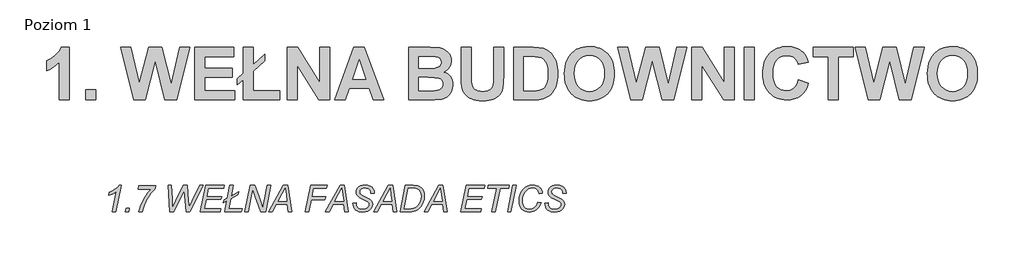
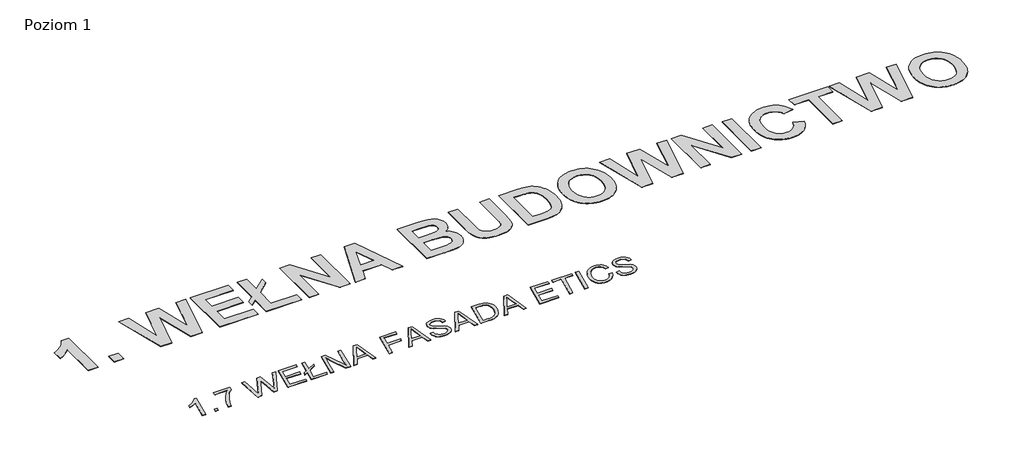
# One storey, incomplete: 2 proxies.
"""IFC4 building model written with IfcOpenShell, lengths in millimetres."""

import ifcopenshell
import ifcopenshell.guid

model = None  # the IFC model being written
_history = None  # IfcOwnerHistory: only IFC2X3 demands one
_inside = {}  # id of a spatial element -> (the spatial element, [elements in it])
_under = {}  # id of a project, library or spatial element -> (it, [spatial elements below it])
_declared = {}  # id of a project -> (the project, [libraries it declares])
_typed = {}  # id of a type object -> (the type object, [elements of that type])
_made_of = {}  # id of a material, layer set ... -> (it, [elements and type objects made of it])


def new_model(schema):
    """Start an empty IFC model of exactly this schema.

    Asked for "IFC4X3", IfcOpenShell would pick the latest addendum, in which some entities
    have other attributes; the version numbers below select the first issue.
    IFC2X3 requires an IfcOwnerHistory on every rooted entity: one is made here for all.
    """
    global model, _history
    if schema == "IFC4X3":
        model = ifcopenshell.file(schema_version=(4, 3, 0, 0))
    else:
        model = ifcopenshell.file(schema=schema)
    _inside.clear()
    _under.clear()
    _declared.clear()
    _typed.clear()
    _made_of.clear()
    _history = None
    if model.schema == "IFC2X3":
        org = make("IfcOrganization", Name="unknown")
        user = make(
            "IfcPersonAndOrganization",
            ThePerson=make("IfcPerson", FamilyName="unknown"),
            TheOrganization=org,
        )
        app = make(
            "IfcApplication",
            ApplicationDeveloper=org,
            Version="unknown",
            ApplicationFullName="unknown",
            ApplicationIdentifier="unknown",
        )
        _history = make(
            "IfcOwnerHistory",
            OwningUser=user,
            OwningApplication=app,
            ChangeAction="ADDED",
            CreationDate=0,
        )
    return model


def make(cls, **values):
    """One entity of the class cls with the attributes given. An attribute that is None is left unset."""
    return model.create_entity(
        cls, **{name: value for name, value in values.items() if value is not None}
    )


def rooted(cls, **values):
    """An entity with a GlobalId (a new one), such as an element, a storey or a relation."""
    return make(cls, GlobalId=ifcopenshell.guid.new(), OwnerHistory=_history, **values)


def si_unit(unit_type, name, prefix=None):
    """IfcSIUnit, for example si_unit("LENGTHUNIT", "METRE", prefix="MILLI")."""
    return make("IfcSIUnit", UnitType=unit_type, Prefix=prefix, Name=name)


def assignment(units):
    """IfcUnitAssignment: the units of a project."""
    return None if units is None else make("IfcUnitAssignment", Units=units)


def point(xyz):
    """IfcCartesianPoint."""
    return None if xyz is None else make("IfcCartesianPoint", Coordinates=xyz)


def direction(xyz):
    """IfcDirection."""
    return None if xyz is None else make("IfcDirection", DirectionRatios=xyz)


def frame(location, z_axis=None, x_axis=None):
    """IfcAxis2Placement3D, a coordinate frame: its origin and axes. An axis left out is left unset."""
    return make(
        "IfcAxis2Placement3D",
        Location=point(location),
        Axis=direction(z_axis),
        RefDirection=direction(x_axis),
    )


def origin():
    """The frame at (0, 0, 0) with its axes left unset."""
    return frame((0.0, 0.0, 0.0))


def origin_with_axes():
    """The frame at (0, 0, 0) with the z axis (0, 0, 1) and the x axis (1, 0, 0) written out."""
    return frame((0.0, 0.0, 0.0), z_axis=(0.0, 0.0, 1.0), x_axis=(1.0, 0.0, 0.0))


def place(relative_to, where):
    """IfcLocalPlacement: puts the frame where relative to a parent placement (None: the world)."""
    return make(
        "IfcLocalPlacement", PlacementRelTo=relative_to, RelativePlacement=where
    )


def context(
    kind, dimensions, precision=None, world=None, true_north=None, identifier=None
):
    """IfcGeometricRepresentationContext, for example the 3D "Model" context."""
    return make(
        "IfcGeometricRepresentationContext",
        ContextIdentifier=identifier,
        ContextType=kind,
        CoordinateSpaceDimension=dimensions,
        Precision=precision,
        WorldCoordinateSystem=world,
        TrueNorth=true_north,
    )


def project(units=None, contexts=None):
    """IfcProject with its units and contexts."""
    return rooted(
        "IfcProject",
        Name="project",
        RepresentationContexts=contexts,
        UnitsInContext=assignment(units),
    )


def spatial(cls, under=None, at=None, **own):
    """A site, building, storey or space (cls), placed at a placement, below another one or the project."""
    s = rooted(cls, ObjectPlacement=at, **own)
    if under is not None:
        _under.setdefault(under.id(), (under, []))[1].append(s)
    return s


def polyline(points):
    """IfcPolyline through the points."""
    return make("IfcPolyline", Points=[point(p) for p in points])


def outline(outer, holes=None, kind="AREA"):
    """IfcArbitraryClosedProfileDef: a profile drawn as a closed curve; with holes, ...WithVoids."""
    if holes is None:
        return make("IfcArbitraryClosedProfileDef", ProfileType=kind, OuterCurve=outer)
    return make(
        "IfcArbitraryProfileDefWithVoids",
        ProfileType=kind,
        OuterCurve=outer,
        InnerCurves=holes,
    )


def extrude(swept, where, along, depth):
    """IfcExtrudedAreaSolid: the profile swept, set in the frame where, extruded along a direction by depth."""
    return make(
        "IfcExtrudedAreaSolid",
        SweptArea=swept,
        Position=where,
        ExtrudedDirection=direction(along),
        Depth=depth,
    )


def shape(context_of_items, identifier, shape_type, items):
    """IfcShapeRepresentation: the items that make up one representation, for example the "Body"."""
    return make(
        "IfcShapeRepresentation",
        ContextOfItems=context_of_items,
        RepresentationIdentifier=identifier,
        RepresentationType=shape_type,
        Items=items,
    )


def made_of(thing, what):
    """Note that an element or type object is made of a material, layer set ...; save() writes the relation."""
    if what is not None:
        _made_of.setdefault(what.id(), (what, []))[1].append(thing)
    return thing


def element(
    cls,
    number,
    at=None,
    inside=None,
    cuts=None,
    type_object=None,
    material=None,
    context=None,
    identifier="Body",
    shape_type=None,
    held_by="IfcProductDefinitionShape",
    body=None,
    shapes=None,
    **own,
):
    """One element of the class cls, such as IfcWall. Its Tag is "e" and its number.

    at: its placement. inside: the storey or other place that contains it. cuts: it is an
    opening in that element (IfcRelVoidsElement). A single representation is given by context,
    identifier, shape_type and body (its items); several are given by shapes. held_by: the class
    of the entity that holds the representations. save() writes the other relations.
    """
    e = rooted(cls, Tag="e%d" % number, ObjectPlacement=at, **own)
    if body is not None:
        shapes = [shape(context, identifier, shape_type, body)]
    if shapes is not None:
        e.Representation = make(held_by, Representations=shapes)
    if inside is not None:
        _inside.setdefault(inside.id(), (inside, []))[1].append(e)
    if cuts is not None:
        rooted(
            "IfcRelVoidsElement", RelatingBuildingElement=cuts, RelatedOpeningElement=e
        )
    if type_object is not None:
        _typed.setdefault(type_object.id(), (type_object, []))[1].append(e)
    return made_of(e, material)


def aggregate(whole, parts):
    """IfcRelAggregates: a whole, such as a stair, and the parts it consists of."""
    return rooted("IfcRelAggregates", RelatingObject=whole, RelatedObjects=parts)


def save(model, path):
    """Write the relations noted so far, then the file.

    IfcRelAggregates (storeys below a building ...), IfcRelContainedInSpatialStructure (elements
    in a storey), IfcRelDefinesByType, IfcRelAssociatesMaterial and IfcRelDeclares: one each for
    every whole, place, type object, material and project.
    """
    for whole, parts in _under.values():
        aggregate(whole, parts)
    for where, things in _inside.values():
        rooted(
            "IfcRelContainedInSpatialStructure",
            RelatedElements=things,
            RelatingStructure=where,
        )
    for kind, things in _typed.values():
        rooted("IfcRelDefinesByType", RelatedObjects=things, RelatingType=kind)
    for what, things in _made_of.values():
        rooted("IfcRelAssociatesMaterial", RelatedObjects=things, RelatingMaterial=what)
    for by, libraries in _declared.values():
        rooted("IfcRelDeclares", RelatingContext=by, RelatedDefinitions=libraries)
    model.write(path)


model = new_model("IFC4")

# Units and contexts
model_context = context("Model", 3, world=origin())
ifc_project = project(units=[si_unit("LENGTHUNIT", "METRE", prefix="MILLI")], contexts=[model_context])

# Site, building, storey
site = spatial("IfcSite", under=ifc_project)
building = spatial("IfcBuilding", under=site)
storey = spatial("IfcBuildingStorey", under=building, Name="Poziom 1", Elevation=0.0)

# Proxies
placement = place(None, origin())
element("IfcBuildingElementProxy", 1, Name="400 mm Arial", ObjectType="400 mm Arial", at=placement, inside=storey, context=model_context, shape_type="SweptSolid", body=[
    extrude(outline(polyline([(-15026.5260383, 15251.1796723), (-14963.7408444, 15553.9220288), (-14986.2736166, 15538.6304005), (-15012.9634554, 15524.9329276), (-15078.8143325, 15502.3204476), (-15069.5927572, 15546.2700833), (-15032.9639732, 15563.3275452), (-14996.850224, 15584.8731673), (-14942.5508415, 15626.4193073), (-14921.2627367, 15653.0049128), (-14891.930279, 15653.0049128), (-14975.4149664, 15251.1796723), (-15026.5260383, 15251.1796723)])), origin_with_axes(), (0.0, 0.0, 1.0), 5.0),
    extrude(outline(polyline([(-14824.828603, 15251.1796723), (-14813.0563792, 15301.4078273), (-14762.8282241, 15301.4078273), (-14773.6194293, 15251.1796723), (-14824.828603, 15251.1796723)])), origin_with_axes(), (0.0, 0.0, 1.0), 5.0),
    extrude(outline(polyline([(-14618.4222783, 15251.1796723), (-14608.1215824, 15295.1538334), (-14590.3651448, 15347.2213985), (-14560.7751696, 15414.6909564), (-14523.2144179, 15481.7190559), (-14479.3260959, 15543.8175367), (-14430.7534098, 15596.4982384), (-14631.8622338, 15596.4982384), (-14622.248251, 15646.7263935), (-14364.3384469, 15646.7263935), (-14373.5600223, 15596.4982384), (-14405.6699891, 15566.2583384), (-14435.6830285, 15531.947211), (-14463.5991406, 15493.5648561), (-14489.4183253, 15451.1112739), (-14515.9364858, 15400.0615157), (-14537.9051723, 15349.722996), (-14555.3243847, 15300.0957149), (-14568.1941232, 15251.1796723), (-14618.4222783, 15251.1796723)])), origin_with_axes(), (0.0, 0.0, 1.0), 5.0),
    extrude(outline(polyline([(-13272.3665834, 15417.9528434), (-13325.0472851, 15389.3070987), (-13312.4902463, 15433.2567344), (-13263.8317211, 15459.744238), (-13224.5909749, 15653.0049128), (-13173.578005, 15653.0049128), (-13206.5402317, 15490.7444275), (-13092.7420679, 15552.5486027), (-13105.2991066, 15508.598967), (-13214.9769921, 15449.0511347), (-13246.2714872, 15295.1293079), (-13036.2353934, 15295.1293079), (-13048.7924322, 15251.1796723), (-13306.2117269, 15251.1796723), (-13272.3665834, 15417.9528434)])), origin_with_axes(), (0.0, 0.0, 1.0), 5.0),
    extrude(outline(polyline([(-13676.6443706, 15251.1796723), (-13595.0236186, 15653.0049128), (-13312.4902463, 15653.0049128), (-13318.8668676, 15609.0552772), (-13552.9379184, 15609.0552772), (-13578.4444034, 15483.4848895), (-13350.1613626, 15483.4848895), (-13362.7184014, 15439.5352538), (-13587.3716731, 15439.5352538), (-13616.7041309, 15295.1293079), (-13364.8766424, 15295.1293079), (-13374.2944215, 15251.1796723), (-13676.6443706, 15251.1796723)])), origin_with_axes(), (0.0, 0.0, 1.0), 5.0),
    extrude(outline(polyline([(-14147.5333244, 15251.1796723), (-14172.647402, 15653.0049128), (-14122.4192469, 15653.0049128), (-14110.9413287, 15452.8771075), (-14106.5267447, 15376.0633469), (-14105.1533186, 15351.4397787), (-14100.4444291, 15320.2433855), (-14053.846043, 15422.3674273), (-13936.1238046, 15653.0049128), (-13877.5569909, 15653.0049128), (-13859.8005533, 15417.4623341), (-13849.3036537, 15320.2433855), (-13833.4111515, 15358.7974186), (-13802.0185546, 15421.3864087), (-13685.4735385, 15653.0049128), (-13629.5554752, 15653.0049128), (-13838.7086522, 15251.1796723), (-13896.3925491, 15251.1796723), (-13915.424311, 15493.5893816), (-13924.6458863, 15571.3841609), (-13951.2314918, 15512.9154491), (-14085.0424362, 15251.1796723), (-14147.5333244, 15251.1796723)])), origin_with_axes(), (0.0, 0.0, 1.0), 5.0),
    extrude(outline(polyline([(-12630.3879763, 15251.1796723), (-12405.5385009, 15653.0049128), (-12341.9684921, 15653.0049128), (-12278.6927889, 15251.1796723), (-12329.4114534, 15251.1796723), (-12345.5001593, 15364.1930212), (-12512.7638397, 15364.1930212), (-12574.0775056, 15251.1796723), (-12630.3879763, 15251.1796723)]), holes=[polyline([(-12486.7668454, 15408.1426569), (-12351.6805768, 15408.1426569), (-12365.8072454, 15508.598967), (-12380.1301178, 15609.0552772), (-12424.374059, 15527.4345252), (-12486.7668454, 15408.1426569)])]), origin_with_axes(), (0.0, 0.0, 1.0), 5.0),
    extrude(outline(polyline([(-12998.5642771, 15251.1796723), (-12916.9435251, 15653.0049128), (-12847.8798119, 15653.0049128), (-12787.0566554, 15497.5134562), (-12742.9108159, 15377.7310786), (-12721.2303037, 15301.4078273), (-12699.0592821, 15415.4021949), (-12652.8533035, 15653.0049128), (-12601.9384354, 15653.0049128), (-12680.0275202, 15251.1796723), (-12754.1925304, 15251.1796723), (-12837.2848104, 15482.0133615), (-12877.8008808, 15594.3399974), (-12897.9117632, 15495.1590115), (-12947.5513071, 15251.1796723), (-12998.5642771, 15251.1796723)])), origin_with_axes(), (0.0, 0.0, 1.0), 5.0),
    extrude(outline(polyline([(-11763.9523013, 15251.1796723), (-11539.1028258, 15653.0049128), (-11475.5328171, 15653.0049128), (-11412.2571139, 15251.1796723), (-11462.9757783, 15251.1796723), (-11479.0644842, 15364.1930212), (-11646.3281647, 15364.1930212), (-11707.6418306, 15251.1796723), (-11763.9523013, 15251.1796723)]), holes=[polyline([(-11620.3311704, 15408.1426569), (-11485.2449018, 15408.1426569), (-11499.3715704, 15508.598967), (-11513.6944427, 15609.0552772), (-11557.938384, 15527.4345252), (-11620.3311704, 15408.1426569)])]), origin_with_axes(), (0.0, 0.0, 1.0), 5.0),
    extrude(outline(polyline([(-12069.3434082, 15251.1796723), (-11988.1150637, 15653.0049128), (-11733.6388249, 15653.0049128), (-11746.1958637, 15609.0552772), (-11945.9312616, 15609.0552772), (-11972.614969, 15477.2063701), (-11759.5377174, 15477.2063701), (-11772.0947561, 15433.2567344), (-11981.5422387, 15433.2567344), (-12018.3304382, 15251.1796723), (-12069.3434082, 15251.1796723)])), origin_with_axes(), (0.0, 0.0, 1.0), 5.0),
    extrude(outline(polyline([(-11341.0351596, 15383.0285793), (-11290.8070046, 15389.3070987), (-11291.3956158, 15374.7880226), (-11288.7468654, 15351.7586097), (-11280.8006143, 15330.7402851), (-11266.7475221, 15312.9961102), (-11245.7782484, 15299.7891465), (-11219.0700155, 15291.5853781), (-11187.8000459, 15288.8507886), (-11145.7020829, 15294.1482893), (-11128.9113355, 15300.7701652), (-11114.9594109, 15310.0407915), (-11096.1606409, 15332.7268478), (-11091.4609484, 15345.1919161), (-11089.8943843, 15358.4050111), (-11093.1807968, 15376.5293307), (-11103.0400342, 15393.0349696), (-11127.957908, 15411.0857128), (-11176.0278221, 15434.6301605), (-11239.2054234, 15466.0227574), (-11262.2103108, 15484.56401), (-11278.2499658, 15504.6748924), (-11287.6677449, 15527.0666432), (-11290.8070046, 15552.4505008), (-11286.7235144, 15581.7829586), (-11274.473044, 15608.1723604), (-11254.3621616, 15630.1349155), (-11226.6974355, 15646.1868332), (-11193.2324367, 15656.0092825), (-11155.7207359, 15659.2834322), (-11112.2370841, 15655.0773148), (-11076.1601231, 15642.4589623), (-11048.2256169, 15622.8263265), (-11029.1693296, 15597.5773589), (-11018.2064461, 15570.1578875), (-11014.5521517, 15544.0137404), (-11014.5521517, 15535.57698), (-11064.7803067, 15531.3585998), (-11067.6252608, 15559.1214277), (-11074.3575013, 15575.2959727), (-11083.9592214, 15588.6991401), (-11097.0558204, 15599.5393962), (-11114.2726978, 15608.0252076), (-11134.6901485, 15613.5066493), (-11157.3884677, 15615.3337965), (-11194.7162274, 15610.3796523), (-11209.8852284, 15604.1869721), (-11222.72431, 15595.5172197), (-11236.1152146, 15577.9324604), (-11240.5788495, 15555.3935568), (-11238.7271768, 15541.36499), (-11233.1721587, 15528.9060531), (-11222.7856237, 15517.330033), (-11206.4394003, 15505.9502166), (-11141.2016599, 15474.4595179), (-11083.517763, 15444.440347), (-11064.8538831, 15428.4006921), (-11051.0460456, 15409.3198792), (-11042.5111833, 15387.2960105), (-11039.6662292, 15362.4271876), (-11044.4977461, 15331.1940062), (-11058.9922967, 15302.4378969), (-11082.0094468, 15278.0473206), (-11112.4087624, 15259.9107383), (-11148.96397, 15248.6535492), (-11190.4487963, 15244.9011529), (-11222.1265018, 15246.777351), (-11250.7446553, 15252.4059456), (-11276.3032569, 15261.7869364), (-11298.8023066, 15274.9203237), (-11317.1688152, 15292.9342787), (-11330.3297936, 15316.956973), (-11338.2852417, 15346.9884065), (-11341.0351596, 15383.0285793)])), origin_with_axes(), (0.0, 0.0, 1.0), 5.0),
    extrude(outline(polyline([(-11023.0870139, 15251.1796723), (-10798.2375385, 15653.0049128), (-10734.6675297, 15653.0049128), (-10671.3918266, 15251.1796723), (-10722.110491, 15251.1796723), (-10738.1991969, 15364.1930212), (-10905.4628774, 15364.1930212), (-10966.7765432, 15251.1796723), (-11023.0870139, 15251.1796723)]), holes=[polyline([(-10879.465883, 15408.1426569), (-10744.3796144, 15408.1426569), (-10758.506283, 15508.598967), (-10772.8291554, 15609.0552772), (-10817.0730966, 15527.4345252), (-10879.465883, 15408.1426569)])]), origin_with_axes(), (0.0, 0.0, 1.0), 5.0),
    extrude(outline(polyline([(-10250.8291297, 15251.1796723), (-10025.9796542, 15653.0049128), (-9962.4096455, 15653.0049128), (-9899.1339423, 15251.1796723), (-9949.8526067, 15251.1796723), (-9965.9413126, 15364.1930212), (-10133.2049931, 15364.1930212), (-10194.5186589, 15251.1796723), (-10250.8291297, 15251.1796723)]), holes=[polyline([(-10107.2079988, 15408.1426569), (-9972.1217301, 15408.1426569), (-9986.2483987, 15508.598967), (-10000.5712711, 15609.0552772), (-10044.8152124, 15527.4345252), (-10107.2079988, 15408.1426569)])]), origin_with_axes(), (0.0, 0.0, 1.0), 5.0),
    extrude(outline(polyline([(-10619.0054304, 15251.1796723), (-10537.3846784, 15653.0049128), (-10417.1117915, 15653.0049128), (-10378.8765895, 15651.435283), (-10350.8930324, 15646.7263935), (-10320.6163442, 15634.8805932), (-10295.1221219, 15616.4129171), (-10274.8640867, 15591.9242389), (-10260.2959597, 15562.0154327), (-10251.50358, 15527.397737), (-10248.5727868, 15488.7823902), (-10252.2025558, 15442.466047), (-10263.0918628, 15400.4416604), (-10279.8304936, 15362.9544851), (-10301.0082338, 15330.2497757), (-10324.9573517, 15303.2349746), (-10350.0101156, 15282.8175238), (-10377.9691472, 15267.918303), (-10410.6370684, 15257.4581916), (-10440.2638317, 15252.7493021), (-10475.9729107, 15251.1796723), (-10619.0054304, 15251.1796723)]), holes=[polyline([(-10559.0651907, 15295.1293079), (-10494.6122651, 15295.1293079), (-10453.4585326, 15296.6989378), (-10417.1117915, 15301.4078273), (-10397.5404693, 15307.6127703), (-10381.010305, 15316.221209), (-10362.1992723, 15330.7402851), (-10345.2031242, 15349.3796395), (-10326.2204132, 15378.5772072), (-10311.4560825, 15411.6252731), (-10301.964727, 15448.9898211), (-10298.8009418, 15491.136835), (-10303.1542121, 15535.025157), (-10316.2140229, 15567.4110353), (-10336.018337, 15589.5452687), (-10360.605117, 15602.6786559), (-10386.0625511, 15607.4611218), (-10422.605496, 15609.0552772), (-10495.2989782, 15609.0552772), (-10559.0651907, 15295.1293079)])]), origin_with_axes(), (0.0, 0.0, 1.0), 5.0),
    extrude(outline(polyline([(-9689.7845616, 15251.1796723), (-9608.1638096, 15653.0049128), (-9325.6304373, 15653.0049128), (-9332.0070585, 15609.0552772), (-9566.0781093, 15609.0552772), (-9591.5845943, 15483.4848895), (-9363.3015536, 15483.4848895), (-9375.8585923, 15439.5352538), (-9600.5118641, 15439.5352538), (-9629.8443218, 15295.1293079), (-9378.0168334, 15295.1293079), (-9387.4346125, 15251.1796723), (-9689.7845616, 15251.1796723)])), origin_with_axes(), (0.0, 0.0, 1.0), 5.0),
    extrude(outline(polyline([(-8974.0333517, 15251.1796723), (-8892.4125997, 15653.0049128), (-8841.3996297, 15653.0049128), (-8923.0203817, 15251.1796723), (-8974.0333517, 15251.1796723)])), origin_with_axes(), (0.0, 0.0, 1.0), 5.0),
    extrude(outline(polyline([(-9212.6170883, 15251.1796723), (-9136.5881427, 15609.0552772), (-9275.4022822, 15609.0552772), (-9265.8864012, 15653.0049128), (-8945.7800145, 15653.0049128), (-8955.2958955, 15609.0552772), (-9085.4770708, 15609.0552772), (-9161.5060165, 15251.1796723), (-9212.6170883, 15251.1796723)])), origin_with_axes(), (0.0, 0.0, 1.0), 5.0),
    extrude(outline(polyline([(-8509.4229173, 15395.5856181), (-8459.1947622, 15389.3070987), (-8473.1804094, 15355.8206401), (-8490.0232734, 15326.6813204), (-8509.7233543, 15301.8891396), (-8532.2806519, 15281.4440977), (-8557.002322, 15265.4565593), (-8583.1955201, 15254.0368891), (-8610.8602461, 15247.1850869), (-8639.9965001, 15244.9011529), (-8674.5528822, 15247.6847933), (-8705.3323425, 15256.0357146), (-8732.3348809, 15269.9539167), (-8755.5604975, 15289.4393997), (-8774.2305088, 15314.1181503), (-8787.5662311, 15343.6161549), (-8795.5676645, 15377.9334137), (-8798.234809, 15417.0699266), (-8794.1697129, 15468.8738429), (-8781.9744248, 15515.9811324), (-8761.6489446, 15558.3917951), (-8733.1932722, 15596.1058309), (-8702.4935197, 15623.7460315), (-8668.2743628, 15643.4890319), (-8630.5358015, 15655.3348322), (-8589.2778357, 15659.2834322), (-8558.9551623, 15657.155848), (-8531.6552525, 15650.7730954), (-8507.3781065, 15640.1351744), (-8486.1237243, 15625.2420849), (-8468.4561915, 15606.7560147), (-8454.9395938, 15585.3391512), (-8445.5739314, 15560.9914945), (-8440.3592041, 15533.7130445), (-8490.5873591, 15527.4345252), (-8502.5067358, 15566.0743974), (-8511.7405739, 15581.1912817), (-8523.1571785, 15593.5061315), (-8536.5726085, 15603.055735), (-8551.8029231, 15609.8768803), (-8587.7082059, 15615.3337965), (-8623.067797, 15611.244175), (-8654.8834582, 15598.9753105), (-8683.1551895, 15578.5272029), (-8707.882991, 15549.8998523), (-8725.4370935, 15520.3773222), (-8737.9757382, 15488.2183045), (-8745.498925, 15453.4227991), (-8748.0066539, 15415.9908061), (-8746.0691421, 15386.8698805), (-8740.2566065, 15361.4093807), (-8730.5690473, 15339.6093068), (-8717.0064644, 15321.4696588), (-8700.3352787, 15307.1989031), (-8681.3219109, 15297.0055061), (-8659.9663611, 15290.8894679), (-8636.2686292, 15288.8507886), (-8615.5354131, 15290.5920967), (-8595.8138725, 15295.816021), (-8577.1040074, 15304.5225616), (-8559.4058177, 15316.7117183), (-8543.3876225, 15332.0891857), (-8529.7177407, 15350.3606581), (-8518.3961723, 15371.5261356), (-8509.4229173, 15395.5856181)])), origin_with_axes(), (0.0, 0.0, 1.0), 5.0),
    extrude(outline(polyline([(-8402.6880878, 15383.0285793), (-8352.4599327, 15389.3070987), (-8353.0485439, 15374.7880226), (-8350.3997935, 15351.7586097), (-8342.4535424, 15330.7402851), (-8328.4004502, 15312.9961102), (-8307.4311765, 15299.7891465), (-8280.7229436, 15291.5853781), (-8249.452974, 15288.8507886), (-8207.3550111, 15294.1482893), (-8190.5642637, 15300.7701652), (-8176.612339, 15310.0407915), (-8157.813569, 15332.7268478), (-8153.1138766, 15345.1919161), (-8151.5473124, 15358.4050111), (-8154.8337249, 15376.5293307), (-8164.6929624, 15393.0349696), (-8189.6108362, 15411.0857128), (-8237.6807502, 15434.6301605), (-8300.8583515, 15466.0227574), (-8323.8632389, 15484.56401), (-8339.9028939, 15504.6748924), (-8349.320673, 15527.0666432), (-8352.4599327, 15552.4505008), (-8348.3764425, 15581.7829586), (-8336.1259721, 15608.1723604), (-8316.0150897, 15630.1349155), (-8288.3503637, 15646.1868332), (-8254.8853648, 15656.0092825), (-8217.3736641, 15659.2834322), (-8173.8900122, 15655.0773148), (-8137.8130512, 15642.4589623), (-8109.8785451, 15622.8263265), (-8090.8222577, 15597.5773589), (-8079.8593743, 15570.1578875), (-8076.2050798, 15544.0137404), (-8076.2050798, 15535.57698), (-8126.4332349, 15531.3585998), (-8129.278189, 15559.1214277), (-8136.0104295, 15575.2959727), (-8145.6121495, 15588.6991401), (-8158.7087486, 15599.5393962), (-8175.9256259, 15608.0252076), (-8196.3430767, 15613.5066493), (-8219.0413958, 15615.3337965), (-8256.3691556, 15610.3796523), (-8271.5381565, 15604.1869721), (-8284.3772381, 15595.5172197), (-8297.7681427, 15577.9324604), (-8302.2317776, 15555.3935568), (-8300.3801049, 15541.36499), (-8294.8250868, 15528.9060531), (-8284.4385518, 15517.330033), (-8268.0923285, 15505.9502166), (-8202.854588, 15474.4595179), (-8145.1706911, 15444.440347), (-8126.5068113, 15428.4006921), (-8112.6989737, 15409.3198792), (-8104.1641114, 15387.2960105), (-8101.3191573, 15362.4271876), (-8106.1506742, 15331.1940062), (-8120.6452248, 15302.4378969), (-8143.662375, 15278.0473206), (-8174.0616905, 15259.9107383), (-8210.6168981, 15248.6535492), (-8252.1017244, 15244.9011529), (-8283.7794299, 15246.777351), (-8312.3975834, 15252.4059456), (-8337.956185, 15261.7869364), (-8360.4552347, 15274.9203237), (-8378.8217433, 15292.9342787), (-8391.9827217, 15316.956973), (-8399.9381699, 15346.9884065), (-8402.6880878, 15383.0285793)])), origin_with_axes(), (0.0, 0.0, 1.0), 5.0),
])
element("IfcBuildingElementProxy", 2, Name="800", ObjectType="800", at=placement, inside=storey, context=model_context, shape_type="SweptSolid", body=[
    extrude(outline(polyline([(-15688.5553841, 16963.7896585), (-15841.5553841, 16963.7896585), (-15841.5553841, 17537.938096), (-15883.9142708, 17497.5215921), (-15929.9088997, 17462.7330179), (-15979.5392708, 17433.5723734), (-16032.8053841, 17410.0396585), (-16032.8053841, 17563.0396585), (-16002.7856087, 17575.1235208), (-15971.4958138, 17591.6524515), (-15905.1061654, 17638.0455179), (-15873.3432259, 17666.8388529), (-15846.984095, 17697.9356546), (-15826.0287728, 17731.3359232), (-15810.4772591, 17767.0396585), (-15688.5553841, 17767.0396585), (-15688.5553841, 16963.7896585)])), origin_with_axes(), (0.0, 0.0, 1.0), 5.0),
    extrude(outline(polyline([(-15433.5553841, 16963.7896585), (-15433.5553841, 17116.7896585), (-15280.5553841, 17116.7896585), (-15280.5553841, 16963.7896585), (-15433.5553841, 16963.7896585)])), origin_with_axes(), (0.0, 0.0, 1.0), 5.0),
    extrude(outline(polyline([(-14695.8483529, 16963.7896585), (-14898.0553841, 17767.0396585), (-14741.0710091, 17767.0396585), (-14611.1803841, 17215.203721), (-14471.5280404, 17767.0396585), (-14265.7350716, 17767.0396585), (-14126.6803841, 17206.0396585), (-13996.7897591, 17767.0396585), (-13839.8053841, 17767.0396585), (-14039.0241341, 16963.7896585), (-14220.1139779, 16963.7896585), (-14368.9303841, 17564.234971), (-14520.7350716, 16963.7896585), (-14695.8483529, 16963.7896585)])), origin_with_axes(), (0.0, 0.0, 1.0), 5.0),
    extrude(outline(polyline([(-13763.3053841, 16963.7896585), (-13763.3053841, 17767.0396585), (-13164.0553841, 17767.0396585), (-13164.0553841, 17626.7896585), (-13610.3053841, 17626.7896585), (-13610.3053841, 17448.2896585), (-13189.5553841, 17448.2896585), (-13189.5553841, 17308.0396585), (-13610.3053841, 17308.0396585), (-13610.3053841, 17104.0396585), (-13151.3053841, 17104.0396585), (-13151.3053841, 16963.7896585), (-13763.3053841, 16963.7896585)])), origin_with_axes(), (0.0, 0.0, 1.0), 5.0),
    extrude(outline(polyline([(-13023.8053841, 17367.406846), (-13023.8053841, 17767.0396585), (-12870.8053841, 17767.0396585), (-12870.8053841, 17501.8795023), (-12692.3053841, 17658.6646585), (-12692.3053841, 17561.047471), (-12870.8053841, 17404.2623148), (-12870.8053841, 17104.0396585), (-12462.8053841, 17104.0396585), (-12462.8053841, 16963.7896585), (-13023.8053841, 16963.7896585), (-13023.8053841, 17269.7896585), (-13113.0553841, 17191.297471), (-13113.0553841, 17288.9146585), (-13023.8053841, 17367.406846)])), origin_with_axes(), (0.0, 0.0, 1.0), 5.0),
    extrude(outline(polyline([(-12348.0553841, 16963.7896585), (-12348.0553841, 17767.0396585), (-12187.6842904, 17767.0396585), (-11850.8053841, 17226.359971), (-11850.8053841, 17767.0396585), (-11697.8053841, 17767.0396585), (-11697.8053841, 16963.7896585), (-11863.1569466, 16963.7896585), (-12195.0553841, 17496.500596), (-12195.0553841, 16963.7896585), (-12348.0553841, 16963.7896585)])), origin_with_axes(), (0.0, 0.0, 1.0), 5.0),
    extrude(outline(polyline([(-10869.0553841, 16963.7896585), (-11029.8249154, 16963.7896585), (-11092.7780404, 17142.2896585), (-11396.1881966, 17142.2896585), (-11458.3444466, 16963.7896585), (-11621.3053841, 16963.7896585), (-11328.0553841, 17767.0396585), (-11165.0944466, 17767.0396585), (-10869.0553841, 16963.7896585)]), holes=[polyline([(-11141.7858529, 17282.5396585), (-11245.1803841, 17575.7896585), (-11347.1803841, 17282.5396585), (-11141.7858529, 17282.5396585)])]), origin_with_axes(), (0.0, 0.0, 1.0), 5.0),
    extrude(outline(polyline([(-10486.5553841, 17767.0396585), (-10156.8483529, 17767.0396585), (-10071.4582161, 17765.047471), (-10010.9206185, 17759.0709085), (-9965.3493294, 17746.7442484), (-9924.8581185, 17725.7017679), (-9890.0695443, 17696.1177835), (-9861.6061654, 17658.1666117), (-9850.5370736, 17636.4579935), (-9842.6305794, 17613.4669046), (-9837.8866829, 17589.1933451), (-9836.3053841, 17563.6373148), (-9838.1917366, 17535.9210062), (-9843.8507943, 17509.3502054), (-9853.282557, 17483.9249124), (-9866.4870247, 17459.6451273), (-9882.9287972, 17437.4197855), (-9902.072474, 17418.1578226), (-9923.918055, 17401.8592386), (-9948.4655404, 17388.5240335), (-9917.213099, 17375.9981546), (-9889.7956185, 17359.7369242), (-9866.213099, 17339.7403421), (-9846.4655404, 17316.0084085), (-9830.864222, 17289.2757425), (-9819.7204232, 17260.2769632), (-9813.0341439, 17229.0120707), (-9810.8053841, 17195.4810648), (-9812.4053597, 17168.3810892), (-9817.2052865, 17141.6670999), (-9836.4049935, 17089.3970804), (-9850.3752083, 17064.9429789), (-9866.6862435, 17043.078721), (-9885.338099, 17023.804307), (-9906.3307747, 17007.1197367), (-9929.782557, 16993.2055521), (-9955.8117318, 16982.2422953), (-9984.4182991, 16974.2299662), (-10015.6022591, 16969.1685648), (-10085.0299935, 16965.632432), (-10212.0319466, 16963.7896585), (-10486.5553841, 16963.7896585), (-10486.5553841, 17767.0396585)]), holes=[polyline([(-10333.5553841, 17626.7896585), (-10333.5553841, 17448.2896585), (-10216.8131966, 17448.2896585), (-10087.3210091, 17450.8795023), (-10046.5558724, 17460.1929789), (-10029.8152718, 17468.2488871), (-10015.5026497, 17478.5709085), (-10004.041346, 17490.9349222), (-9995.8547005, 17505.116807), (-9990.9427132, 17521.1165628), (-9989.3053841, 17538.9341898), (-9994.9582161, 17571.2823343), (-10002.0242562, 17584.9723978), (-10011.9167122, 17597.0064554), (-10024.5857796, 17607.1105814), (-10039.9816536, 17615.0108499), (-10078.9538216, 17624.1998148), (-10231.1569466, 17626.7896585), (-10333.5553841, 17626.7896585)]), polyline([(-10333.5553841, 17308.0396585), (-10333.5553841, 17104.0396585), (-10171.7897591, 17104.0396585), (-10094.4928841, 17105.234971), (-10051.8600716, 17108.8209085), (-10016.4489388, 17119.504014), (-9988.3092904, 17139.2017679), (-9977.5888314, 17152.3315287), (-9969.9313607, 17167.5157328), (-9965.3368782, 17184.7543802), (-9963.8053841, 17204.047471), (-9968.5368294, 17235.7232523), (-9982.7311654, 17262.219346), (-10005.8405404, 17282.8882914), (-10037.3171029, 17297.0826273), (-10093.8952279, 17305.3004007), (-10192.3092904, 17308.0396585), (-10333.5553841, 17308.0396585)])]), origin_with_axes(), (0.0, 0.0, 1.0), 5.0),
    extrude(outline(polyline([(-9683.3053841, 17767.0396585), (-9530.3053841, 17767.0396585), (-9530.3053841, 17333.7388773), (-9528.6618294, 17248.672471), (-9523.7311654, 17199.8638773), (-9516.098597, 17176.5615091), (-9504.5563607, 17155.6622171), (-9489.1044564, 17137.1660013), (-9469.7428841, 17121.0728617), (-9446.4716439, 17108.0427103), (-9419.2907357, 17098.7354593), (-9388.2001595, 17093.1511087), (-9353.1999154, 17091.2896585), (-9317.8697152, 17093.0452738), (-9287.1838021, 17098.3121195), (-9261.1421761, 17107.0901957), (-9239.7448372, 17119.3795023), (-9222.5684456, 17134.2275248), (-9209.1896615, 17150.6817484), (-9199.6084847, 17168.7421732), (-9193.8249154, 17188.4087992), (-9187.9977669, 17242.8702249), (-9186.0553841, 17324.375596), (-9186.0553841, 17767.0396585), (-9033.0553841, 17767.0396585), (-9033.0553841, 17345.6920023), (-9036.3922982, 17222.3257914), (-9046.4030404, 17141.4927835), (-9054.4838509, 17112.8613138), (-9065.3786263, 17086.5333109), (-9079.0873665, 17062.5087748), (-9095.6100716, 17040.7877054), (-9115.0525765, 17021.2704935), (-9137.5207161, 17003.8575296), (-9163.0144906, 16988.5488138), (-9191.5338997, 16975.344346), (-9223.8633675, 16964.7110453), (-9260.7873177, 16957.1158304), (-9302.3057503, 16952.5587015), (-9348.4186654, 16951.0396585), (-9403.2660775, 16952.6956644), (-9451.0661263, 16957.663682), (-9491.8188118, 16965.9437113), (-9525.5241341, 16977.5357523), (-9554.1244759, 16991.7798929), (-9579.56222, 17008.016221), (-9601.8373665, 17026.2447367), (-9620.9499154, 17046.4654398), (-9650.0358529, 17089.944932), (-9667.1686654, 17135.516221), (-9679.2712044, 17220.8814554), (-9683.3053841, 17339.1177835), (-9683.3053841, 17767.0396585)])), origin_with_axes(), (0.0, 0.0, 1.0), 5.0),
    extrude(outline(polyline([(-8880.0553841, 17767.0396585), (-8582.6217904, 17767.0396585), (-8493.9694466, 17763.2046976), (-8429.2233529, 17751.6998148), (-8395.0324349, 17739.2299662), (-8363.381556, 17722.738389), (-8334.2707161, 17702.2250833), (-8307.6999154, 17677.6900492), (-8283.9119515, 17649.6500101), (-8263.1496224, 17618.6216898), (-8245.4129281, 17584.6050882), (-8230.7018685, 17547.6002054), (-8219.1534066, 17506.8537455), (-8210.9045052, 17461.6124124), (-8205.9551644, 17411.8762064), (-8204.3053841, 17357.6451273), (-8205.8493294, 17309.8326273), (-8210.4811654, 17265.406846), (-8218.2008919, 17224.3677835), (-8229.0085091, 17186.7154398), (-8245.7677865, 17144.9791117), (-8265.7643685, 17107.4263773), (-8288.9982552, 17074.0572367), (-8315.4694466, 17044.8716898), (-8338.4543099, 17025.472764), (-8365.1745247, 17008.3150492), (-8395.6300911, 16993.3985453), (-8429.8210091, 16980.7232523), (-8492.7243294, 16968.023057), (-8573.8561654, 16963.7896585), (-8880.0553841, 16963.7896585), (-8880.0553841, 17767.0396585)]), holes=[polyline([(-8727.0553841, 17626.7896585), (-8727.0553841, 17104.0396585), (-8596.7663216, 17104.0396585), (-8533.8131966, 17105.9322367), (-8491.1803841, 17111.609971), (-8452.3576302, 17124.5840921), (-8420.756556, 17144.3814554), (-8407.4026741, 17157.8473978), (-8395.331263, 17175.0362406), (-8375.0358529, 17220.5826273), (-8361.7380013, 17283.2369242), (-8357.3053841, 17365.2154398), (-8361.7380013, 17446.0484476), (-8367.2787728, 17478.5086527), (-8375.0358529, 17505.6646585), (-8396.2775521, 17549.2935648), (-8424.5417122, 17582.1646585), (-8460.6252083, 17605.1744242), (-8505.3249154, 17619.219346), (-8559.4626107, 17624.8970804), (-8648.5631966, 17626.7896585), (-8727.0553841, 17626.7896585)])]), origin_with_axes(), (0.0, 0.0, 1.0), 5.0),
    extrude(outline(polyline([(-8102.3053841, 17360.4341898), (-8100.051722, 17419.2286234), (-8093.2907357, 17473.0923929), (-8082.0224251, 17522.0254984), (-8066.2467904, 17566.0279398), (-8034.4464974, 17624.0753031), (-7992.834681, 17675.8970804), (-7944.1007943, 17718.3057718), (-7918.0716195, 17734.7848978), (-7890.9342904, 17748.1138773), (-7852.659388, 17761.9720316), (-7811.5456185, 17771.8707132), (-7767.5929818, 17777.8099222), (-7720.8014779, 17779.7896585), (-7678.3118538, 17778.0729532), (-7638.0011849, 17772.9228373), (-7599.869471, 17764.3393106), (-7563.9167122, 17752.3223734), (-7530.1429085, 17736.8720255), (-7498.5480599, 17717.9882669), (-7469.1321663, 17695.6710978), (-7441.8952279, 17669.9205179), (-7417.3819832, 17641.1131754), (-7396.1371712, 17609.6257181), (-7378.1607918, 17575.4581461), (-7363.452845, 17538.6104593), (-7352.0133309, 17499.0826578), (-7343.8422493, 17456.8747416), (-7338.9396004, 17411.9867105), (-7337.3053841, 17364.4185648), (-7338.9271492, 17317.1819315), (-7343.7924447, 17272.5911722), (-7351.9012703, 17230.646287), (-7363.2536263, 17191.3472757), (-7377.8495125, 17154.6941385), (-7395.688929, 17120.6868753), (-7416.7718758, 17089.3254862), (-7441.0983529, 17060.609971), (-7468.1422982, 17034.9294291), (-7497.3776497, 17012.6729593), (-7528.8044075, 16993.8405619), (-7562.4225716, 16978.4322367), (-7598.2321419, 16966.4479837), (-7636.2331185, 16957.8878031), (-7676.4255013, 16952.7516947), (-7718.8092904, 16951.0396585), (-7761.6599984, 16952.7439127), (-7802.2570443, 16957.8566751), (-7840.6004281, 16966.3779459), (-7876.6901497, 16978.3077249), (-7910.5262093, 16993.6460123), (-7942.1086068, 17012.392808), (-7971.4373421, 17034.5481119), (-7998.5124154, 17060.1119242), (-8022.8388924, 17088.6640177), (-8043.9218392, 17119.7841654), (-8061.7612557, 17153.4723673), (-8076.3571419, 17189.7286234), (-8087.7094979, 17228.5529337), (-8095.8183236, 17269.9452982), (-8100.683619, 17313.9057169), (-8102.3053841, 17360.4341898)]), holes=[polyline([(-7949.3053841, 17366.0123148), (-7945.2400765, 17302.4739847), (-7933.0441536, 17247.1285257), (-7912.7176156, 17199.9759378), (-7884.2604622, 17161.016221), (-7849.5403695, 17130.5108499), (-7810.425013, 17108.7212992), (-7766.9143929, 17095.6475687), (-7719.0085091, 17091.2896585), (-7671.15243, 17095.6164408), (-7627.791224, 17108.5967874), (-7588.9248909, 17130.2306986), (-7554.553431, 17160.5181742), (-7526.4449105, 17199.4592142), (-7506.3673958, 17247.0538187), (-7494.320887, 17303.3019876), (-7490.3053841, 17368.203721), (-7494.2150521, 17432.2027445), (-7505.944056, 17487.5357523), (-7525.4923958, 17534.2027445), (-7552.8600716, 17572.203721), (-7586.7023568, 17601.6631937), (-7625.6745247, 17622.7056742), (-7669.7765755, 17635.3311624), (-7719.0085091, 17639.5396585), (-7768.2902474, 17635.2813578), (-7812.5417122, 17622.5064554), (-7851.7629036, 17601.2149515), (-7885.9538216, 17571.406846), (-7913.6701302, 17533.0198832), (-7933.4674935, 17485.991807), (-7945.3459115, 17430.3226175), (-7949.3053841, 17366.0123148)])]), origin_with_axes(), (0.0, 0.0, 1.0), 5.0),
    extrude(outline(polyline([(-7084.0983529, 16963.7896585), (-7286.3053841, 17767.0396585), (-7129.3210091, 17767.0396585), (-6999.4303841, 17215.203721), (-6859.7780404, 17767.0396585), (-6653.9850716, 17767.0396585), (-6514.9303841, 17206.0396585), (-6385.0397591, 17767.0396585), (-6228.0553841, 17767.0396585), (-6427.2741341, 16963.7896585), (-6608.3639779, 16963.7896585), (-6757.1803841, 17564.234971), (-6908.9850716, 16963.7896585), (-7084.0983529, 16963.7896585)])), origin_with_axes(), (0.0, 0.0, 1.0), 5.0),
    extrude(outline(polyline([(-6151.5553841, 16963.7896585), (-6151.5553841, 17767.0396585), (-5991.1842904, 17767.0396585), (-5654.3053841, 17226.359971), (-5654.3053841, 17767.0396585), (-5501.3053841, 17767.0396585), (-5501.3053841, 16963.7896585), (-5666.6569466, 16963.7896585), (-5998.5553841, 17496.500596), (-5998.5553841, 16963.7896585), (-6151.5553841, 16963.7896585)])), origin_with_axes(), (0.0, 0.0, 1.0), 5.0),
    extrude(outline(polyline([(-5348.3053841, 16963.7896585), (-5348.3053841, 17767.0396585), (-5195.3053841, 17767.0396585), (-5195.3053841, 16963.7896585), (-5348.3053841, 16963.7896585)])), origin_with_axes(), (0.0, 0.0, 1.0), 5.0),
    extrude(outline(polyline([(-4519.5553841, 17269.7896585), (-4366.5553841, 17218.7896585), (-4387.6850228, 17158.29564), (-4414.8161263, 17106.1065531), (-4447.9486947, 17062.2223978), (-4487.0827279, 17026.6431742), (-4532.0563607, 16999.1447611), (-4582.7077279, 16979.5030374), (-4639.0368294, 16967.7180033), (-4701.0436654, 16963.7896585), (-4740.2430672, 16965.467454), (-4777.6557259, 16970.5008402), (-4813.2816414, 16978.8898172), (-4847.1208138, 16990.6343851), (-4879.173243, 17005.7345438), (-4909.438929, 17024.1902933), (-4937.9178719, 17046.0016336), (-4964.6100716, 17071.1685648), (-4988.796473, 17099.2459574), (-5009.7580208, 17129.788682), (-5027.4947152, 17162.7967386), (-5042.006556, 17198.2701273), (-5053.2935433, 17236.208848), (-5061.3556771, 17276.6129007), (-5066.1929574, 17319.4822855), (-5067.8053841, 17364.8170023), (-5066.1789498, 17412.6979837), (-5061.2996468, 17457.8272562), (-5053.1674752, 17500.2048197), (-5041.7824349, 17539.8306742), (-5027.144526, 17576.7048197), (-5009.2537484, 17610.8272562), (-4988.1101021, 17642.1979837), (-4963.7135872, 17670.8170023), (-4936.6649727, 17696.3574686), (-4907.5650277, 17718.4925394), (-4876.413752, 17737.2222147), (-4843.2111458, 17752.5464945), (-4807.9572091, 17764.4653788), (-4770.6519417, 17772.9788675), (-4731.2953438, 17778.0869608), (-4689.8874154, 17779.7896585), (-4619.2643685, 17774.17418), (-4555.6139779, 17757.3277445), (-4526.4035286, 17744.6929178), (-4498.9362435, 17729.2503519), (-4473.2121224, 17711.0000467), (-4449.2311654, 17689.9420023), (-4423.3700814, 17660.5447855), (-4400.9704232, 17625.3453226), (-4382.0321907, 17584.3436136), (-4366.5553841, 17537.5396585), (-4519.5553841, 17512.0396585), (-4529.1988167, 17540.0610208), (-4542.9884896, 17564.957139), (-4560.9244027, 17586.728013), (-4583.006556, 17605.3736429), (-4608.4629769, 17620.3212748), (-4636.5216927, 17630.9981546), (-4667.1827034, 17637.4042826), (-4700.4460091, 17639.5396585), (-4745.9114632, 17635.6611185), (-4786.8820443, 17624.0254984), (-4823.3577523, 17604.6327982), (-4855.3385872, 17577.4830179), (-4881.3553109, 17541.6547708), (-4899.9386849, 17496.2266703), (-4911.0887093, 17441.1987162), (-4914.8053841, 17376.5709085), (-4911.2007699, 17308.1641703), (-4900.3869271, 17250.3658304), (-4882.3638558, 17203.175889), (-4857.131556, 17166.594346), (-4826.1219124, 17139.2266703), (-4790.7668099, 17119.6783304), (-4751.0662484, 17107.9493265), (-4707.0202279, 17104.0396585), (-4674.2300667, 17106.5361185), (-4643.7931771, 17114.0254984), (-4615.7095589, 17126.5077982), (-4589.9792122, 17143.9830179), (-4567.1624398, 17166.8246927), (-4547.8195443, 17195.4063578), (-4531.9505257, 17229.728013), (-4519.5553841, 17269.7896585)])), origin_with_axes(), (0.0, 0.0, 1.0), 5.0),
    extrude(outline(polyline([(-4060.5553841, 16963.7896585), (-4060.5553841, 17626.7896585), (-4290.0553841, 17626.7896585), (-4290.0553841, 17767.0396585), (-3678.0553841, 17767.0396585), (-3678.0553841, 17626.7896585), (-3907.5553841, 17626.7896585), (-3907.5553841, 16963.7896585), (-4060.5553841, 16963.7896585)])), origin_with_axes(), (0.0, 0.0, 1.0), 5.0),
    extrude(outline(polyline([(-3450.3483529, 16963.7896585), (-3652.5553841, 17767.0396585), (-3495.5710091, 17767.0396585), (-3365.6803841, 17215.203721), (-3226.0280404, 17767.0396585), (-3020.2350716, 17767.0396585), (-2881.1803841, 17206.0396585), (-2751.2897591, 17767.0396585), (-2594.3053841, 17767.0396585), (-2793.5241341, 16963.7896585), (-2974.6139779, 16963.7896585), (-3123.4303841, 17564.234971), (-3275.2350716, 16963.7896585), (-3450.3483529, 16963.7896585)])), origin_with_axes(), (0.0, 0.0, 1.0), 5.0),
    extrude(outline(polyline([(-2543.3053841, 17360.4341898), (-2541.051722, 17419.2286234), (-2534.2907357, 17473.0923929), (-2523.0224251, 17522.0254984), (-2507.2467904, 17566.0279398), (-2475.4464974, 17624.0753031), (-2433.834681, 17675.8970804), (-2385.1007943, 17718.3057718), (-2359.0716195, 17734.7848978), (-2331.9342904, 17748.1138773), (-2293.659388, 17761.9720316), (-2252.5456185, 17771.8707132), (-2208.5929818, 17777.8099222), (-2161.8014779, 17779.7896585), (-2119.3118538, 17778.0729532), (-2079.0011849, 17772.9228373), (-2040.869471, 17764.3393106), (-2004.9167122, 17752.3223734), (-1971.1429085, 17736.8720255), (-1939.5480599, 17717.9882669), (-1910.1321663, 17695.6710978), (-1882.8952279, 17669.9205179), (-1858.3819832, 17641.1131754), (-1837.1371712, 17609.6257181), (-1819.1607918, 17575.4581461), (-1804.452845, 17538.6104593), (-1793.0133309, 17499.0826578), (-1784.8422493, 17456.8747416), (-1779.9396004, 17411.9867105), (-1778.3053841, 17364.4185648), (-1779.9271492, 17317.1819315), (-1784.7924447, 17272.5911722), (-1792.9012703, 17230.646287), (-1804.2536263, 17191.3472757), (-1818.8495125, 17154.6941385), (-1836.688929, 17120.6868753), (-1857.7718758, 17089.3254862), (-1882.0983529, 17060.609971), (-1909.1422982, 17034.9294291), (-1938.3776497, 17012.6729593), (-1969.8044075, 16993.8405619), (-2003.4225716, 16978.4322367), (-2039.2321419, 16966.4479837), (-2077.2331185, 16957.8878031), (-2117.4255013, 16952.7516947), (-2159.8092904, 16951.0396585), (-2202.6599984, 16952.7439127), (-2243.2570443, 16957.8566751), (-2281.6004281, 16966.3779459), (-2317.6901497, 16978.3077249), (-2351.5262093, 16993.6460123), (-2383.1086068, 17012.392808), (-2412.4373421, 17034.5481119), (-2439.5124154, 17060.1119242), (-2463.8388924, 17088.6640177), (-2484.9218392, 17119.7841654), (-2502.7612557, 17153.4723673), (-2517.3571419, 17189.7286234), (-2528.7094979, 17228.5529337), (-2536.8183236, 17269.9452982), (-2541.683619, 17313.9057169), (-2543.3053841, 17360.4341898)]), holes=[polyline([(-2390.3053841, 17366.0123148), (-2386.2400765, 17302.4739847), (-2374.0441536, 17247.1285257), (-2353.7176156, 17199.9759378), (-2325.2604622, 17161.016221), (-2290.5403695, 17130.5108499), (-2251.425013, 17108.7212992), (-2207.9143929, 17095.6475687), (-2160.0085091, 17091.2896585), (-2112.15243, 17095.6164408), (-2068.791224, 17108.5967874), (-2029.9248909, 17130.2306986), (-1995.553431, 17160.5181742), (-1967.4449105, 17199.4592142), (-1947.3673958, 17247.0538187), (-1935.320887, 17303.3019876), (-1931.3053841, 17368.203721), (-1935.2150521, 17432.2027445), (-1946.944056, 17487.5357523), (-1966.4923958, 17534.2027445), (-1993.8600716, 17572.203721), (-2027.7023568, 17601.6631937), (-2066.6745247, 17622.7056742), (-2110.7765755, 17635.3311624), (-2160.0085091, 17639.5396585), (-2209.2902474, 17635.2813578), (-2253.5417122, 17622.5064554), (-2292.7629036, 17601.2149515), (-2326.9538216, 17571.406846), (-2354.6701302, 17533.0198832), (-2374.4674935, 17485.991807), (-2386.3459115, 17430.3226175), (-2390.3053841, 17366.0123148)])]), origin_with_axes(), (0.0, 0.0, 1.0), 5.0),
])

save(model, "model.ifc")
